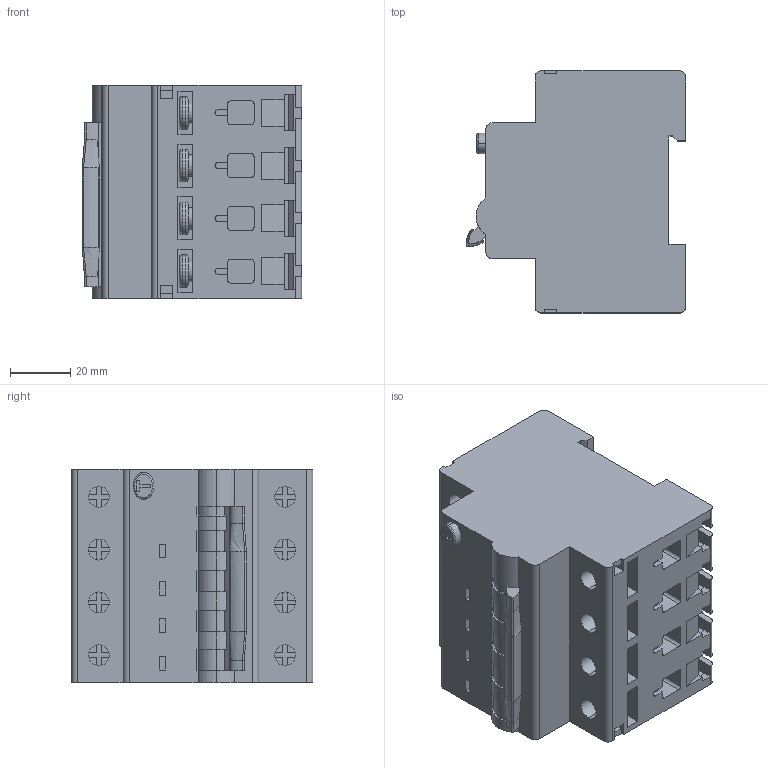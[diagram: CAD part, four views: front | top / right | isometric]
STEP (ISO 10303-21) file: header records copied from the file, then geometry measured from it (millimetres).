
FILE_DESCRIPTION (( 'STEP AP203' ), '1' );
FILE_NAME ('Aardlekautomaat 4P.STEP', '2026-02-05T15:14:22', ( '' ), ( '' ), 'SwSTEP 2.0', 'SolidWorks 2025', '' );
FILE_SCHEMA (( 'CONFIG_CONTROL_DESIGN' ));
Length unit declared in the file: millimetre
Products named in the file (1): Aardlekautomaat 4P
Bounding box: 72.86 x 80.25 x 71 mm (x, y, z)
Volume: 303782.5 mm3; surface area: 45572 mm2
Topology: 1 solids, 4 shells, 712 faces, 1948 edges, 1294 vertices
Faces by surface type: plane 518, cylinder 148, torus 32, bspline 14
Entity records: 23164 total; most frequent: CARTESIAN_POINT 4789, ORIENTED_EDGE 3896, DIRECTION 3648, EDGE_CURVE 1948, LINE 1512, VECTOR 1512, VERTEX_POINT 1294, AXIS2_PLACEMENT_3D 1068
